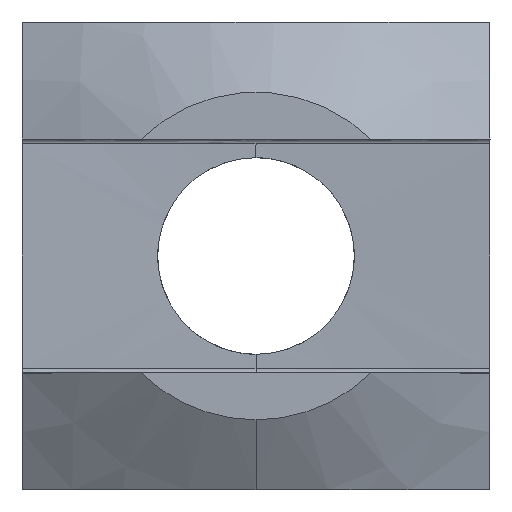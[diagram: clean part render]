
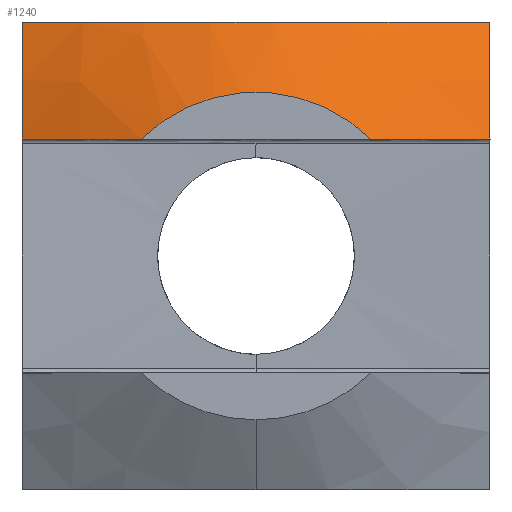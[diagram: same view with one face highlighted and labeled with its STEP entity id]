
A CAD part, left-side view. The second image highlights one B-rep face of the part: STEP entity #1240.
In plain terms, the highlighted conical face has half-angle 60 degrees and reference radius 7.093 mm.
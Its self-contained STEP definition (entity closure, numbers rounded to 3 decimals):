
#27 = CARTESIAN_POINT ( 'NONE',  ( -3.926, 0., 0. ) ) ;
#71 = AXIS2_PLACEMENT_3D ( 'NONE', #27, #433, #212 ) ;
#73 = CARTESIAN_POINT ( 'NONE',  ( -5.101, 0.868, 5. ) ) ;
#75 = EDGE_CURVE ( 'NONE', #485, #1215, #1057, .T. ) ;
#77 = CARTESIAN_POINT ( 'NONE',  ( -5.001, -1.707, 5. ) ) ;
#117 = ORIENTED_EDGE ( 'NONE', *, *, #374, .T. ) ;
#129 = ORIENTED_EDGE ( 'NONE', *, *, #916, .F. ) ;
#178 = CARTESIAN_POINT ( 'NONE',  ( -4.793, -5., 2.5 ) ) ;
#180 = CARTESIAN_POINT ( 'NONE',  ( -4.542, -3.376, 5. ) ) ;
#184 = CARTESIAN_POINT ( 'NONE',  ( -4.258, -4.194, 5. ) ) ;
#212 = DIRECTION ( 'NONE',  ( 0., 0., -1. ) ) ;
#237 = EDGE_CURVE ( 'NONE', #1079, #553, #565, .T. ) ;
#243 = B_SPLINE_CURVE_WITH_KNOTS ( 'NONE', 3,
 ( #296, #493, #597, #1299, #586, #1086 ),
 .UNSPECIFIED., .F., .F.,
 ( 4, 2, 4 ),
 ( 0., 0.001, 0.003 ),
 .UNSPECIFIED. ) ;
#278 = CARTESIAN_POINT ( 'NONE',  ( -4.572, -5., 3.355 ) ) ;
#279 = EDGE_LOOP ( 'NONE', ( #117, #430, #410, #129, #730, #1093 ) ) ;
#283 = CARTESIAN_POINT ( 'NONE',  ( -4.265, 4.2, 5. ) ) ;
#286 = CARTESIAN_POINT ( 'NONE',  ( -3.938, -5., 5. ) ) ;
#288 = CARTESIAN_POINT ( 'NONE',  ( -3.938, -5., 5. ) ) ;
#293 = CARTESIAN_POINT ( 'NONE',  ( -4.977, 1.724, 5. ) ) ;
#296 = CARTESIAN_POINT ( 'NONE',  ( -4.793, 5., 2.5 ) ) ;
#374 = EDGE_CURVE ( 'NONE', #1204, #723, #243, .T. ) ;
#388 = B_SPLINE_CURVE_WITH_KNOTS ( 'NONE', 3,
 ( #1092, #710, #510, #703 ),
 .UNSPECIFIED., .F., .F.,
 ( 4, 4 ),
 ( 0., 0.003 ),
 .UNSPECIFIED. ) ;
#410 = ORIENTED_EDGE ( 'NONE', *, *, #237, .T. ) ;
#430 = ORIENTED_EDGE ( 'NONE', *, *, #647, .T. ) ;
#433 = DIRECTION ( 'NONE',  ( 1., 0., 0. ) ) ;
#438 = CARTESIAN_POINT ( 'NONE',  ( -4.793, -5., 2.5 ) ) ;
#484 = CIRCLE ( 'NONE', #872, 3.5 ) ;
#485 = VERTEX_POINT ( 'NONE', #1178 ) ;
#492 = CARTESIAN_POINT ( 'NONE',  ( -3.938, 5., 5. ) ) ;
#493 = CARTESIAN_POINT ( 'NONE',  ( -5.009, 4.582, 2.5 ) ) ;
#498 = CARTESIAN_POINT ( 'NONE',  ( -4.887, 2.145, 5. ) ) ;
#506 = DIRECTION ( 'NONE',  ( 1., 0., 0. ) ) ;
#510 = CARTESIAN_POINT ( 'NONE',  ( -4.272, 5., 4.183 ) ) ;
#540 = CARTESIAN_POINT ( 'NONE',  ( -5.824, -2.886, 2.5 ) ) ;
#553 = VERTEX_POINT ( 'NONE', #677 ) ;
#565 = B_SPLINE_CURVE_WITH_KNOTS ( 'NONE', 3,
 ( #1138, #540, #639, #1238, #1045, #438 ),
 .UNSPECIFIED., .F., .F.,
 ( 4, 2, 4 ),
 ( 0., 0.001, 0.003 ),
 .UNSPECIFIED. ) ;
#586 = CARTESIAN_POINT ( 'NONE',  ( -5.824, 2.886, 2.5 ) ) ;
#597 = CARTESIAN_POINT ( 'NONE',  ( -5.221, 4.162, 2.5 ) ) ;
#623 = CARTESIAN_POINT ( 'NONE',  ( -3.938, -5., 5. ) ) ;
#633 = CARTESIAN_POINT ( 'NONE',  ( -4.793, 5., 2.5 ) ) ;
#639 = CARTESIAN_POINT ( 'NONE',  ( -5.628, -3.314, 2.5 ) ) ;
#647 = EDGE_CURVE ( 'NONE', #723, #1079, #484, .T. ) ;
#652 = EDGE_CURVE ( 'NONE', #1204, #485, #388, .T. ) ;
#677 = CARTESIAN_POINT ( 'NONE',  ( -4.793, -5., 2.5 ) ) ;
#698 = CARTESIAN_POINT ( 'NONE',  ( -4.559, 3.39, 5. ) ) ;
#703 = CARTESIAN_POINT ( 'NONE',  ( -3.938, 5., 5. ) ) ;
#710 = CARTESIAN_POINT ( 'NONE',  ( -4.572, 5., 3.355 ) ) ;
#723 = VERTEX_POINT ( 'NONE', #843 ) ;
#730 = ORIENTED_EDGE ( 'NONE', *, *, #75, .F. ) ;
#790 = CARTESIAN_POINT ( 'NONE',  ( -4.672, -2.962, 5. ) ) ;
#806 = CARTESIAN_POINT ( 'NONE',  ( -6., -2.449, 2.5 ) ) ;
#843 = CARTESIAN_POINT ( 'NONE',  ( -6., 2.449, 2.5 ) ) ;
#858 = B_SPLINE_CURVE_WITH_KNOTS ( 'NONE', 3,
 ( #286, #1191, #278, #178 ),
 .UNSPECIFIED., .F., .F.,
 ( 4, 4 ),
 ( 0., 0.003 ),
 .UNSPECIFIED. ) ;
#872 = AXIS2_PLACEMENT_3D ( 'NONE', #1103, #506, #1105 ) ;
#895 = CARTESIAN_POINT ( 'NONE',  ( -4.102, -4.599, 5. ) ) ;
#916 = EDGE_CURVE ( 'NONE', #1215, #553, #858, .T. ) ;
#993 = FACE_OUTER_BOUND ( 'NONE', #279, .T. ) ;
#1045 = CARTESIAN_POINT ( 'NONE',  ( -5.009, -4.582, 2.5 ) ) ;
#1057 = B_SPLINE_CURVE_WITH_KNOTS ( 'NONE', 3,
 ( #492, #283, #698, #498, #293, #73, #1197, #1303, #77, #790, #180, #184, #895, #288 ),
 .UNSPECIFIED., .F., .F.,
 ( 4, 2, 2, 2, 2, 2, 4 ),
 ( 0., 0.003, 0.004, 0.005, 0.008, 0.009, 0.01 ),
 .UNSPECIFIED. ) ;
#1079 = VERTEX_POINT ( 'NONE', #806 ) ;
#1086 = CARTESIAN_POINT ( 'NONE',  ( -6., 2.449, 2.5 ) ) ;
#1092 = CARTESIAN_POINT ( 'NONE',  ( -4.793, 5., 2.5 ) ) ;
#1093 = ORIENTED_EDGE ( 'NONE', *, *, #652, .F. ) ;
#1103 = CARTESIAN_POINT ( 'NONE',  ( -6., 0., 0. ) ) ;
#1105 = DIRECTION ( 'NONE',  ( 0., 0., -1. ) ) ;
#1138 = CARTESIAN_POINT ( 'NONE',  ( -6., -2.449, 2.5 ) ) ;
#1178 = CARTESIAN_POINT ( 'NONE',  ( -3.938, 5., 5. ) ) ;
#1191 = CARTESIAN_POINT ( 'NONE',  ( -4.272, -5., 4.183 ) ) ;
#1197 = CARTESIAN_POINT ( 'NONE',  ( -5.134, 0.43, 5. ) ) ;
#1204 = VERTEX_POINT ( 'NONE', #633 ) ;
#1215 = VERTEX_POINT ( 'NONE', #623 ) ;
#1238 = CARTESIAN_POINT ( 'NONE',  ( -5.221, -4.162, 2.5 ) ) ;
#1240 = ADVANCED_FACE ( 'NONE', ( #993 ), #1292, .T. ) ;
#1292 = CONICAL_SURFACE ( 'NONE', #71, 7.092, 1.047 ) ;
#1299 = CARTESIAN_POINT ( 'NONE',  ( -5.628, 3.314, 2.5 ) ) ;
#1303 = CARTESIAN_POINT ( 'NONE',  ( -5.134, -0.86, 5. ) ) ;
